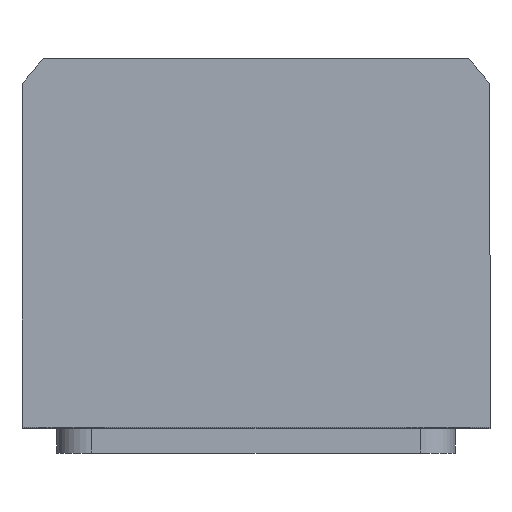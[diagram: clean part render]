
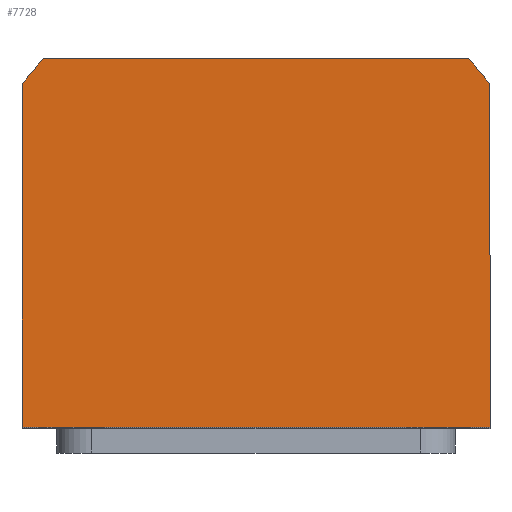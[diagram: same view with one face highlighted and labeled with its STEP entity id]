
A CAD part, top view. The second image highlights one B-rep face of the part: STEP entity #7728.
In plain terms, the highlighted planar face has unit normal (0, 0, 1).
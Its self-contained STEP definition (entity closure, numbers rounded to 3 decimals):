
#199 = CARTESIAN_POINT ( 'NONE',  ( 47., -34., 77.5 ) ) ;
#292 = CARTESIAN_POINT ( 'NONE',  ( -47., -34., 77.5 ) ) ;
#413 = LINE ( 'NONE', #292, #14859 ) ;
#556 = CARTESIAN_POINT ( 'NONE',  ( 47., 34.832, 77.5 ) ) ;
#667 = CARTESIAN_POINT ( 'NONE',  ( 0., 0., 77.5 ) ) ;
#827 = EDGE_CURVE ( 'NONE', #1177, #15091, #2128, .T. ) ;
#1177 = VERTEX_POINT ( 'NONE', #556 ) ;
#2128 = CIRCLE ( 'NONE', #11001, 58.5 ) ;
#2786 = EDGE_CURVE ( 'NONE', #11320, #15175, #413, .T. ) ;
#3200 = PLANE ( 'NONE',  #3223 ) ;
#3223 = AXIS2_PLACEMENT_3D ( 'NONE', #12542, #11577, #11470 ) ;
#3715 = CIRCLE ( 'NONE', #5319, 58.5 ) ;
#4290 = DIRECTION ( 'NONE',  ( 1., 0., 0. ) ) ;
#4497 = EDGE_LOOP ( 'NONE', ( #11525, #10416, #13738, #14085, #8417, #14472 ) ) ;
#4738 = VERTEX_POINT ( 'NONE', #199 ) ;
#5043 = DIRECTION ( 'NONE',  ( 0., -1., 0. ) ) ;
#5086 = CARTESIAN_POINT ( 'NONE',  ( 47., -34., 77.5 ) ) ;
#5319 = AXIS2_PLACEMENT_3D ( 'NONE', #667, #6517, #4290 ) ;
#5370 = VECTOR ( 'NONE', #5764, 1000. ) ;
#5716 = CARTESIAN_POINT ( 'NONE',  ( -42.688, 40., 77.5 ) ) ;
#5764 = DIRECTION ( 'NONE',  ( -1., 0., 0. ) ) ;
#5859 = VECTOR ( 'NONE', #10891, 1000. ) ;
#6464 = LINE ( 'NONE', #5716, #5370 ) ;
#6517 = DIRECTION ( 'NONE',  ( 0., 0., 1. ) ) ;
#6895 = DIRECTION ( 'NONE',  ( 0., 1., 0. ) ) ;
#7562 = LINE ( 'NONE', #10371, #14916 ) ;
#7728 = ADVANCED_FACE ( 'NONE', ( #8920 ), #3200, .T. ) ;
#7966 = DIRECTION ( 'NONE',  ( 0., 0., 1. ) ) ;
#8417 = ORIENTED_EDGE ( 'NONE', *, *, #11270, .T. ) ;
#8920 = FACE_OUTER_BOUND ( 'NONE', #4497, .T. ) ;
#8927 = CARTESIAN_POINT ( 'NONE',  ( 42.688, 40., 77.5 ) ) ;
#8994 = VERTEX_POINT ( 'NONE', #14330 ) ;
#9578 = EDGE_CURVE ( 'NONE', #4738, #1177, #7562, .T. ) ;
#10371 = CARTESIAN_POINT ( 'NONE',  ( 47., 34.832, 77.5 ) ) ;
#10416 = ORIENTED_EDGE ( 'NONE', *, *, #9578, .T. ) ;
#10448 = DIRECTION ( 'NONE',  ( 1., 0., 0. ) ) ;
#10692 = EDGE_CURVE ( 'NONE', #15091, #8994, #6464, .T. ) ;
#10891 = DIRECTION ( 'NONE',  ( 1., 0., 0. ) ) ;
#11001 = AXIS2_PLACEMENT_3D ( 'NONE', #13812, #7966, #10448 ) ;
#11270 = EDGE_CURVE ( 'NONE', #8994, #11320, #3715, .T. ) ;
#11320 = VERTEX_POINT ( 'NONE', #13594 ) ;
#11470 = DIRECTION ( 'NONE',  ( 1., 0., 0. ) ) ;
#11525 = ORIENTED_EDGE ( 'NONE', *, *, #14918, .T. ) ;
#11577 = DIRECTION ( 'NONE',  ( 0., 0., 1. ) ) ;
#12234 = LINE ( 'NONE', #5086, #5859 ) ;
#12542 = CARTESIAN_POINT ( 'NONE',  ( 0., 0., 77.5 ) ) ;
#13594 = CARTESIAN_POINT ( 'NONE',  ( -47., 34.832, 77.5 ) ) ;
#13738 = ORIENTED_EDGE ( 'NONE', *, *, #827, .T. ) ;
#13812 = CARTESIAN_POINT ( 'NONE',  ( 0., 0., 77.5 ) ) ;
#14085 = ORIENTED_EDGE ( 'NONE', *, *, #10692, .T. ) ;
#14330 = CARTESIAN_POINT ( 'NONE',  ( -42.688, 40., 77.5 ) ) ;
#14472 = ORIENTED_EDGE ( 'NONE', *, *, #2786, .T. ) ;
#14859 = VECTOR ( 'NONE', #5043, 1000. ) ;
#14916 = VECTOR ( 'NONE', #6895, 1000. ) ;
#14918 = EDGE_CURVE ( 'NONE', #15175, #4738, #12234, .T. ) ;
#14944 = CARTESIAN_POINT ( 'NONE',  ( -47., -34., 77.5 ) ) ;
#15091 = VERTEX_POINT ( 'NONE', #8927 ) ;
#15175 = VERTEX_POINT ( 'NONE', #14944 ) ;
